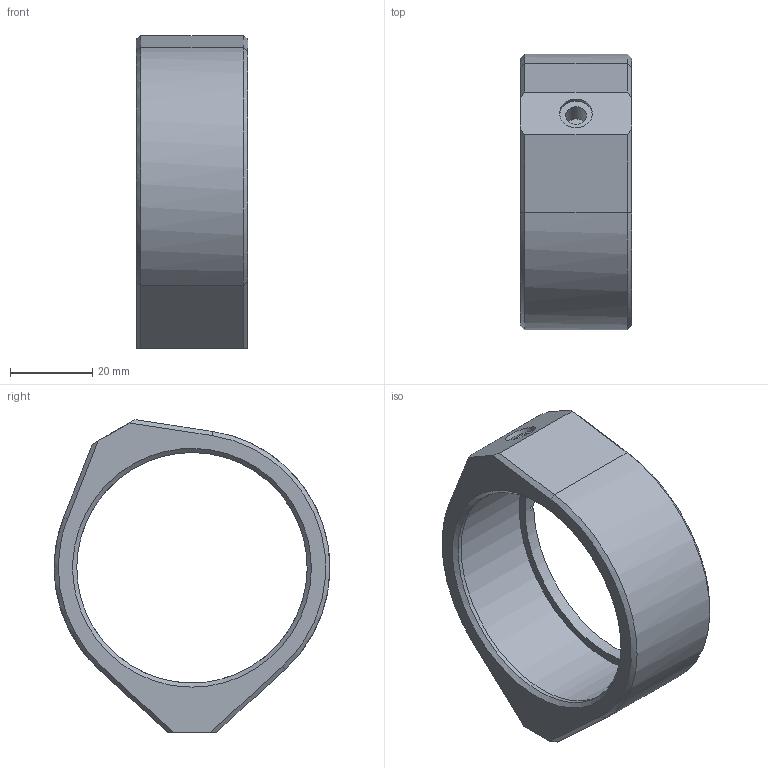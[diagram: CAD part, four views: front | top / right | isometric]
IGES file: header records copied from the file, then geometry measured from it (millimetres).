
Global section: file name: LHF-60AS-N; native system: Autodesk Inventor 2014; preprocessor: unknown; author: e.nonaka; date: 20140807.174734; units: millimetre
Bounding box: 27 x 67 x 76 mm (x, y, z)
Volume: 27439.9 mm3; surface area: 14373.6 mm2
Topology: 1 solids, 1 shells, 48 faces, 117 edges, 76 vertices
Faces by surface type: bspline 48
